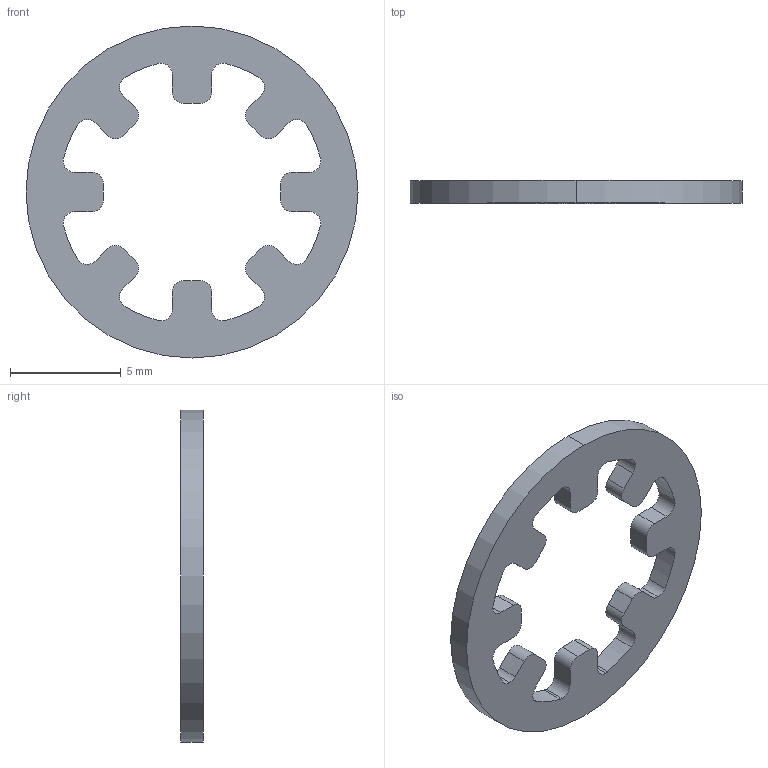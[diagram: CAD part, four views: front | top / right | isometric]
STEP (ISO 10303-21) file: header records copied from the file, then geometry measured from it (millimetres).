
FILE_DESCRIPTION (( 'STEP AP214' ), '1' );
FILE_NAME ('8mm_retaining_ring-am-0033.step', '2025-12-23T15:51:58', ( '' ), ( '' ), 'SwSTEP 2.0', 'SolidWorks 2026', '' );
FILE_SCHEMA (( 'AUTOMOTIVE_DESIGN' ));
Length unit declared in the file: inch
Products named in the file (1): 8mm_retaining_ring-am-0033
Bounding box: 15 x 1.02 x 15 mm (x, y, z)
Volume: 93.8 mm3; surface area: 293.1 mm2
Topology: 1 solids, 1 shells, 74 faces, 216 edges, 144 vertices
Faces by surface type: cylinder 48, plane 26
Entity records: 2527 total; most frequent: DIRECTION 462, CARTESIAN_POINT 435, ORIENTED_EDGE 432, EDGE_CURVE 216, AXIS2_PLACEMENT_3D 171, VERTEX_POINT 144, LINE 120, VECTOR 120
